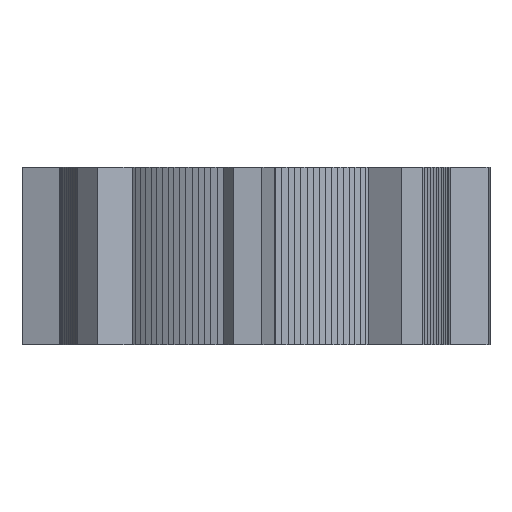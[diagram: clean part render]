
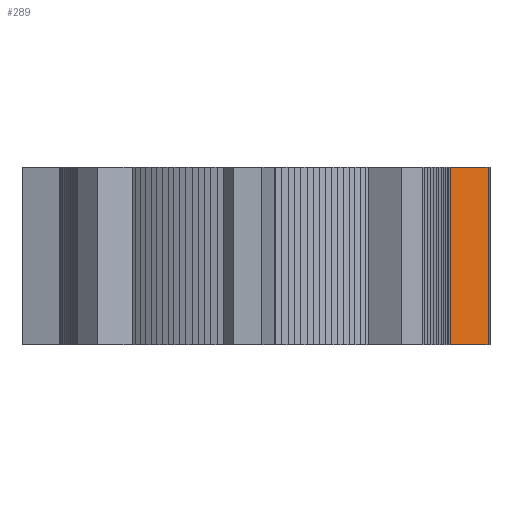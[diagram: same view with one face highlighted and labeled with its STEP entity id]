
A CAD part, left-side view. The second image highlights one B-rep face of the part: STEP entity #289.
In plain terms, the highlighted planar face has unit normal (-0.975, -0.223, 0).
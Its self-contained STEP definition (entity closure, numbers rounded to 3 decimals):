
#72 = PLANE('',#73);
#73 = AXIS2_PLACEMENT_3D('',#74,#75,#76);
#74 = CARTESIAN_POINT('',(112.494,-0.003,15.));
#75 = DIRECTION('',(-0.,-0.,-1.));
#76 = DIRECTION('',(-1.,0.,0.));
#126 = PLANE('',#127);
#127 = AXIS2_PLACEMENT_3D('',#128,#129,#130);
#128 = CARTESIAN_POINT('',(112.494,-0.003,0.));
#129 = DIRECTION('',(-0.,-0.,-1.));
#130 = DIRECTION('',(-1.,0.,0.));
#181 = PLANE('',#182);
#182 = AXIS2_PLACEMENT_3D('',#183,#184,#185);
#183 = CARTESIAN_POINT('',(-0.171,-19.776,0.));
#184 = DIRECTION('',(-0.069,-0.998,0.));
#185 = DIRECTION('',(-0.998,0.069,0.));
#219 = VERTEX_POINT('',#220);
#220 = CARTESIAN_POINT('',(-2.565,-19.609,15.));
#241 = EDGE_CURVE('',#242,#219,#244,.T.);
#242 = VERTEX_POINT('',#243);
#243 = CARTESIAN_POINT('',(-2.565,-19.609,0.));
#244 = SURFACE_CURVE('',#245,(#249,#256),.PCURVE_S1.);
#245 = LINE('',#246,#247);
#246 = CARTESIAN_POINT('',(-2.565,-19.609,0.));
#247 = VECTOR('',#248,1.);
#248 = DIRECTION('',(0.,0.,1.));
#249 = PCURVE('',#181,#250);
#250 = DEFINITIONAL_REPRESENTATION('',(#251),#255);
#251 = LINE('',#252,#253);
#252 = CARTESIAN_POINT('',(2.4,0.));
#253 = VECTOR('',#254,1.);
#254 = DIRECTION('',(0.,-1.));
#255 = ( GEOMETRIC_REPRESENTATION_CONTEXT(2) 
PARAMETRIC_REPRESENTATION_CONTEXT() REPRESENTATION_CONTEXT('2D SPACE',''
  ) );
#256 = PCURVE('',#257,#262);
#257 = PLANE('',#258);
#258 = AXIS2_PLACEMENT_3D('',#259,#260,#261);
#259 = CARTESIAN_POINT('',(-2.565,-19.609,0.));
#260 = DIRECTION('',(-0.975,-0.223,0.));
#261 = DIRECTION('',(-0.223,0.975,0.));
#262 = DEFINITIONAL_REPRESENTATION('',(#263),#267);
#263 = LINE('',#264,#265);
#264 = CARTESIAN_POINT('',(0.,0.));
#265 = VECTOR('',#266,1.);
#266 = DIRECTION('',(0.,-1.));
#267 = ( GEOMETRIC_REPRESENTATION_CONTEXT(2) 
PARAMETRIC_REPRESENTATION_CONTEXT() REPRESENTATION_CONTEXT('2D SPACE',''
  ) );
#289 = ADVANCED_FACE('',(#290),#257,.T.);
#290 = FACE_BOUND('',#291,.T.);
#291 = EDGE_LOOP('',(#292,#293,#316,#344));
#292 = ORIENTED_EDGE('',*,*,#241,.T.);
#293 = ORIENTED_EDGE('',*,*,#294,.T.);
#294 = EDGE_CURVE('',#219,#295,#297,.T.);
#295 = VERTEX_POINT('',#296);
#296 = CARTESIAN_POINT('',(-3.296,-16.412,15.));
#297 = SURFACE_CURVE('',#298,(#302,#309),.PCURVE_S1.);
#298 = LINE('',#299,#300);
#299 = CARTESIAN_POINT('',(-2.565,-19.609,15.));
#300 = VECTOR('',#301,1.);
#301 = DIRECTION('',(-0.223,0.975,0.));
#302 = PCURVE('',#257,#303);
#303 = DEFINITIONAL_REPRESENTATION('',(#304),#308);
#304 = LINE('',#305,#306);
#305 = CARTESIAN_POINT('',(0.,-15.));
#306 = VECTOR('',#307,1.);
#307 = DIRECTION('',(1.,0.));
#308 = ( GEOMETRIC_REPRESENTATION_CONTEXT(2) 
PARAMETRIC_REPRESENTATION_CONTEXT() REPRESENTATION_CONTEXT('2D SPACE',''
  ) );
#309 = PCURVE('',#72,#310);
#310 = DEFINITIONAL_REPRESENTATION('',(#311),#315);
#311 = LINE('',#312,#313);
#312 = CARTESIAN_POINT('',(115.059,-19.607));
#313 = VECTOR('',#314,1.);
#314 = DIRECTION('',(0.223,0.975));
#315 = ( GEOMETRIC_REPRESENTATION_CONTEXT(2) 
PARAMETRIC_REPRESENTATION_CONTEXT() REPRESENTATION_CONTEXT('2D SPACE',''
  ) );
#316 = ORIENTED_EDGE('',*,*,#317,.F.);
#317 = EDGE_CURVE('',#318,#295,#320,.T.);
#318 = VERTEX_POINT('',#319);
#319 = CARTESIAN_POINT('',(-3.296,-16.412,0.));
#320 = SURFACE_CURVE('',#321,(#325,#332),.PCURVE_S1.);
#321 = LINE('',#322,#323);
#322 = CARTESIAN_POINT('',(-3.296,-16.412,0.));
#323 = VECTOR('',#324,1.);
#324 = DIRECTION('',(0.,0.,1.));
#325 = PCURVE('',#257,#326);
#326 = DEFINITIONAL_REPRESENTATION('',(#327),#331);
#327 = LINE('',#328,#329);
#328 = CARTESIAN_POINT('',(3.28,0.));
#329 = VECTOR('',#330,1.);
#330 = DIRECTION('',(0.,-1.));
#331 = ( GEOMETRIC_REPRESENTATION_CONTEXT(2) 
PARAMETRIC_REPRESENTATION_CONTEXT() REPRESENTATION_CONTEXT('2D SPACE',''
  ) );
#332 = PCURVE('',#333,#338);
#333 = PLANE('',#334);
#334 = AXIS2_PLACEMENT_3D('',#335,#336,#337);
#335 = CARTESIAN_POINT('',(-3.296,-16.412,0.));
#336 = DIRECTION('',(-0.211,-0.977,0.));
#337 = DIRECTION('',(-0.977,0.211,0.));
#338 = DEFINITIONAL_REPRESENTATION('',(#339),#343);
#339 = LINE('',#340,#341);
#340 = CARTESIAN_POINT('',(0.,0.));
#341 = VECTOR('',#342,1.);
#342 = DIRECTION('',(0.,-1.));
#343 = ( GEOMETRIC_REPRESENTATION_CONTEXT(2) 
PARAMETRIC_REPRESENTATION_CONTEXT() REPRESENTATION_CONTEXT('2D SPACE',''
  ) );
#344 = ORIENTED_EDGE('',*,*,#345,.F.);
#345 = EDGE_CURVE('',#242,#318,#346,.T.);
#346 = SURFACE_CURVE('',#347,(#351,#358),.PCURVE_S1.);
#347 = LINE('',#348,#349);
#348 = CARTESIAN_POINT('',(-2.565,-19.609,0.));
#349 = VECTOR('',#350,1.);
#350 = DIRECTION('',(-0.223,0.975,0.));
#351 = PCURVE('',#257,#352);
#352 = DEFINITIONAL_REPRESENTATION('',(#353),#357);
#353 = LINE('',#354,#355);
#354 = CARTESIAN_POINT('',(0.,0.));
#355 = VECTOR('',#356,1.);
#356 = DIRECTION('',(1.,0.));
#357 = ( GEOMETRIC_REPRESENTATION_CONTEXT(2) 
PARAMETRIC_REPRESENTATION_CONTEXT() REPRESENTATION_CONTEXT('2D SPACE',''
  ) );
#358 = PCURVE('',#126,#359);
#359 = DEFINITIONAL_REPRESENTATION('',(#360),#364);
#360 = LINE('',#361,#362);
#361 = CARTESIAN_POINT('',(115.059,-19.607));
#362 = VECTOR('',#363,1.);
#363 = DIRECTION('',(0.223,0.975));
#364 = ( GEOMETRIC_REPRESENTATION_CONTEXT(2) 
PARAMETRIC_REPRESENTATION_CONTEXT() REPRESENTATION_CONTEXT('2D SPACE',''
  ) );
